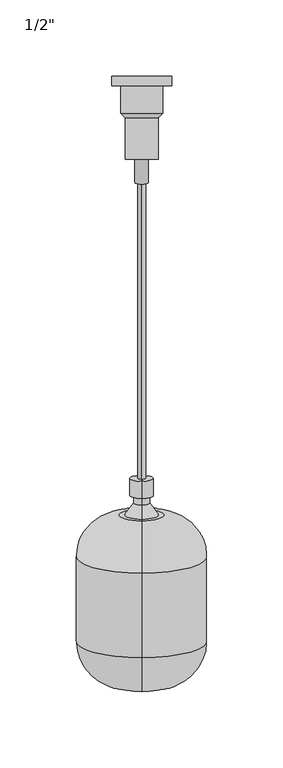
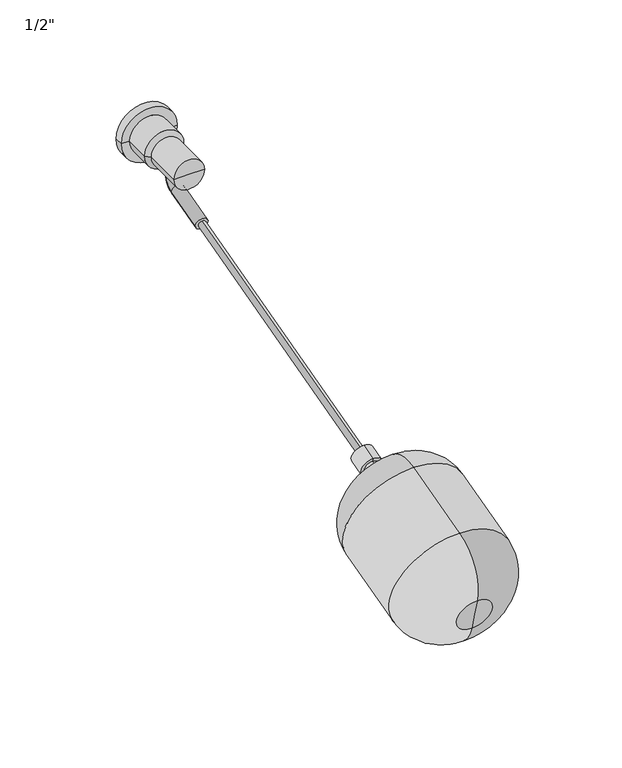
"""IFC4 building model written with IfcOpenShell, lengths in millimetres: flow terminal geometry."""

import ifcopenshell
import ifcopenshell.guid

model = None  # the IFC model being written
_history = None  # IfcOwnerHistory: only IFC2X3 demands one
_inside = {}  # id of a spatial element -> (the spatial element, [elements in it])
_under = {}  # id of a project, library or spatial element -> (it, [spatial elements below it])
_declared = {}  # id of a project -> (the project, [libraries it declares])
_typed = {}  # id of a type object -> (the type object, [elements of that type])
_made_of = {}  # id of a material, layer set ... -> (it, [elements and type objects made of it])


def new_model(schema):
    """Start an empty IFC model of exactly this schema.

    Asked for "IFC4X3", IfcOpenShell would pick the latest addendum, in which some entities
    have other attributes; the version numbers below select the first issue.
    IFC2X3 requires an IfcOwnerHistory on every rooted entity: one is made here for all.
    """
    global model, _history
    if schema == "IFC4X3":
        model = ifcopenshell.file(schema_version=(4, 3, 0, 0))
    else:
        model = ifcopenshell.file(schema=schema)
    _inside.clear()
    _under.clear()
    _declared.clear()
    _typed.clear()
    _made_of.clear()
    _history = None
    if model.schema == "IFC2X3":
        org = make("IfcOrganization", Name="unknown")
        user = make(
            "IfcPersonAndOrganization",
            ThePerson=make("IfcPerson", FamilyName="unknown"),
            TheOrganization=org,
        )
        app = make(
            "IfcApplication",
            ApplicationDeveloper=org,
            Version="unknown",
            ApplicationFullName="unknown",
            ApplicationIdentifier="unknown",
        )
        _history = make(
            "IfcOwnerHistory",
            OwningUser=user,
            OwningApplication=app,
            ChangeAction="ADDED",
            CreationDate=0,
        )
    return model


def make(cls, **values):
    """One entity of the class cls with the attributes given. An attribute that is None is left unset."""
    return model.create_entity(
        cls, **{name: value for name, value in values.items() if value is not None}
    )


def rooted(cls, **values):
    """An entity with a GlobalId (a new one), such as an element, a storey or a relation."""
    return make(cls, GlobalId=ifcopenshell.guid.new(), OwnerHistory=_history, **values)


def si_unit(unit_type, name, prefix=None):
    """IfcSIUnit, for example si_unit("LENGTHUNIT", "METRE", prefix="MILLI")."""
    return make("IfcSIUnit", UnitType=unit_type, Prefix=prefix, Name=name)


def assignment(units):
    """IfcUnitAssignment: the units of a project."""
    return None if units is None else make("IfcUnitAssignment", Units=units)


def point(xyz):
    """IfcCartesianPoint."""
    return None if xyz is None else make("IfcCartesianPoint", Coordinates=xyz)


def direction(xyz):
    """IfcDirection."""
    return None if xyz is None else make("IfcDirection", DirectionRatios=xyz)


def frame(location, z_axis=None, x_axis=None):
    """IfcAxis2Placement3D, a coordinate frame: its origin and axes. An axis left out is left unset."""
    return make(
        "IfcAxis2Placement3D",
        Location=point(location),
        Axis=direction(z_axis),
        RefDirection=direction(x_axis),
    )


def frame_2d(location, x_axis=None):
    """IfcAxis2Placement2D, a coordinate frame in the plane: its origin and x axis."""
    return make(
        "IfcAxis2Placement2D", Location=point(location), RefDirection=direction(x_axis)
    )


def origin():
    """The frame at (0, 0, 0) with its axes left unset."""
    return frame((0.0, 0.0, 0.0))


def origin_2d():
    """The frame at (0, 0) in the plane with its x axis left unset."""
    return frame_2d((0.0, 0.0))


def place(relative_to, where):
    """IfcLocalPlacement: puts the frame where relative to a parent placement (None: the world)."""
    return make(
        "IfcLocalPlacement", PlacementRelTo=relative_to, RelativePlacement=where
    )


def context(
    kind, dimensions, precision=None, world=None, true_north=None, identifier=None
):
    """IfcGeometricRepresentationContext, for example the 3D "Model" context."""
    return make(
        "IfcGeometricRepresentationContext",
        ContextIdentifier=identifier,
        ContextType=kind,
        CoordinateSpaceDimension=dimensions,
        Precision=precision,
        WorldCoordinateSystem=world,
        TrueNorth=true_north,
    )


def project(units=None, contexts=None):
    """IfcProject with its units and contexts."""
    return rooted(
        "IfcProject",
        Name="project",
        RepresentationContexts=contexts,
        UnitsInContext=assignment(units),
    )


def spatial(cls, under=None, at=None, **own):
    """A site, building, storey or space (cls), placed at a placement, below another one or the project."""
    s = rooted(cls, ObjectPlacement=at, **own)
    if under is not None:
        _under.setdefault(under.id(), (under, []))[1].append(s)
    return s


def polyline(points):
    """IfcPolyline through the points."""
    return make("IfcPolyline", Points=[point(p) for p in points])


def circle_curve(where, radius):
    """IfcCircle in the frame where."""
    return make("IfcCircle", Position=where, Radius=radius)


def ellipse_curve(where, semi_axis1, semi_axis2):
    """IfcEllipse in the frame where."""
    return make(
        "IfcEllipse", Position=where, SemiAxis1=semi_axis1, SemiAxis2=semi_axis2
    )


def trimmed(basis, trim1, trim2, sense, master):
    """IfcTrimmedCurve: the piece of a basis curve between two trims."""
    return make(
        "IfcTrimmedCurve",
        BasisCurve=basis,
        Trim1=trim1,
        Trim2=trim2,
        SenseAgreement=sense,
        MasterRepresentation=master,
    )


def segment(curve, same_sense, transition):
    """IfcCompositeCurveSegment."""
    return make(
        "IfcCompositeCurveSegment",
        Transition=transition,
        SameSense=same_sense,
        ParentCurve=curve,
    )


def composite_curve(segments, self_intersect=None):
    """IfcCompositeCurve: segments joined end to end."""
    return make("IfcCompositeCurve", Segments=segments, SelfIntersect=self_intersect)


def outline(outer, holes=None, kind="AREA"):
    """IfcArbitraryClosedProfileDef: a profile drawn as a closed curve; with holes, ...WithVoids."""
    if holes is None:
        return make("IfcArbitraryClosedProfileDef", ProfileType=kind, OuterCurve=outer)
    return make(
        "IfcArbitraryProfileDefWithVoids",
        ProfileType=kind,
        OuterCurve=outer,
        InnerCurves=holes,
    )


def extrude(swept, where, along, depth):
    """IfcExtrudedAreaSolid: the profile swept, set in the frame where, extruded along a direction by depth."""
    return make(
        "IfcExtrudedAreaSolid",
        SweptArea=swept,
        Position=where,
        ExtrudedDirection=direction(along),
        Depth=depth,
    )


def shape(context_of_items, identifier, shape_type, items):
    """IfcShapeRepresentation: the items that make up one representation, for example the "Body"."""
    return make(
        "IfcShapeRepresentation",
        ContextOfItems=context_of_items,
        RepresentationIdentifier=identifier,
        RepresentationType=shape_type,
        Items=items,
    )


def source(mapping_origin, context_of_items, identifier, shape_type, items):
    """IfcRepresentationMap: a shape defined once, which mapped items show again and again."""
    return make(
        "IfcRepresentationMap",
        MappingOrigin=mapping_origin,
        MappedRepresentation=shape(context_of_items, identifier, shape_type, items),
    )


def transform(
    local_origin,
    x_axis=None,
    y_axis=None,
    z_axis=None,
    scale=None,
    scale2=None,
    scale3=None,
    uniform=True,
):
    """IfcCartesianTransformationOperator3D, or its non-uniform kind. x_axis, y_axis, z_axis: its Axis1, 2, 3."""
    if uniform:
        return make(
            "IfcCartesianTransformationOperator3D",
            Axis1=direction(x_axis),
            Axis2=direction(y_axis),
            LocalOrigin=point(local_origin),
            Scale=scale,
            Axis3=direction(z_axis),
        )
    return make(
        "IfcCartesianTransformationOperator3DnonUniform",
        Axis1=direction(x_axis),
        Axis2=direction(y_axis),
        LocalOrigin=point(local_origin),
        Scale=scale,
        Axis3=direction(z_axis),
        Scale2=scale2,
        Scale3=scale3,
    )


def mapped(mapping_source, mapping_target):
    """IfcMappedItem: shows the shape of a source again, moved by a transform."""
    return make(
        "IfcMappedItem", MappingSource=mapping_source, MappingTarget=mapping_target
    )


def made_of(thing, what):
    """Note that an element or type object is made of a material, layer set ...; save() writes the relation."""
    if what is not None:
        _made_of.setdefault(what.id(), (what, []))[1].append(thing)
    return thing


def element(
    cls,
    number,
    at=None,
    inside=None,
    cuts=None,
    type_object=None,
    material=None,
    context=None,
    identifier="Body",
    shape_type=None,
    held_by="IfcProductDefinitionShape",
    body=None,
    shapes=None,
    **own,
):
    """One element of the class cls, such as IfcWall. Its Tag is "e" and its number.

    at: its placement. inside: the storey or other place that contains it. cuts: it is an
    opening in that element (IfcRelVoidsElement). A single representation is given by context,
    identifier, shape_type and body (its items); several are given by shapes. held_by: the class
    of the entity that holds the representations. save() writes the other relations.
    """
    e = rooted(cls, Tag="e%d" % number, ObjectPlacement=at, **own)
    if body is not None:
        shapes = [shape(context, identifier, shape_type, body)]
    if shapes is not None:
        e.Representation = make(held_by, Representations=shapes)
    if inside is not None:
        _inside.setdefault(inside.id(), (inside, []))[1].append(e)
    if cuts is not None:
        rooted(
            "IfcRelVoidsElement", RelatingBuildingElement=cuts, RelatedOpeningElement=e
        )
    if type_object is not None:
        _typed.setdefault(type_object.id(), (type_object, []))[1].append(e)
    return made_of(e, material)


def aggregate(whole, parts):
    """IfcRelAggregates: a whole, such as a stair, and the parts it consists of."""
    return rooted("IfcRelAggregates", RelatingObject=whole, RelatedObjects=parts)


def save(model, path):
    """Write the relations noted so far, then the file.

    IfcRelAggregates (storeys below a building ...), IfcRelContainedInSpatialStructure (elements
    in a storey), IfcRelDefinesByType, IfcRelAssociatesMaterial and IfcRelDeclares: one each for
    every whole, place, type object, material and project.
    """
    for whole, parts in _under.values():
        aggregate(whole, parts)
    for where, things in _inside.values():
        rooted(
            "IfcRelContainedInSpatialStructure",
            RelatedElements=things,
            RelatingStructure=where,
        )
    for kind, things in _typed.values():
        rooted("IfcRelDefinesByType", RelatedObjects=things, RelatingType=kind)
    for what, things in _made_of.values():
        rooted("IfcRelAssociatesMaterial", RelatedObjects=things, RelatingMaterial=what)
    for by, libraries in _declared.values():
        rooted("IfcRelDeclares", RelatingContext=by, RelatedDefinitions=libraries)
    model.write(path)


def plane_surface(at):
    """IfcPlane: the flat surface through the origin of the frame at, square to its z axis."""
    return make("IfcPlane", Position=at)


def cylinder_surface(at, radius):
    """IfcCylindricalSurface: all points at the distance radius from the z axis of the frame at."""
    return make("IfcCylindricalSurface", Position=at, Radius=radius)


def revolved_surface(curve, axis_point, axis_direction):
    """IfcSurfaceOfRevolution: the curve turned about the line through axis_point along axis_direction."""
    return make(
        "IfcSurfaceOfRevolution",
        SweptCurve=make("IfcArbitraryOpenProfileDef", ProfileType="CURVE", Curve=curve),
        AxisPosition=make("IfcAxis1Placement", Location=point(axis_point), Axis=direction(axis_direction)),
    )


def advanced_brep(points, edges, surfaces, faces):
    """IfcAdvancedBrep: a solid bounded by faces that lie on surfaces and meet in shared edges.

    An edge is (start, end): straight between two places in points (the first is 0);
    or (start, end, curve); or (start, end, curve, False) where it runs against its curve.
    A face is (place in surfaces, loops), or (place, loops, False) where it looks against
    its surface's normal. A loop lists edges by number (the first is 1), with a minus sign
    where the edge is run from its end to its start. The first loop is the outer one.
    """
    corners = [point(p) for p in points]
    vertices = [make("IfcVertexPoint", VertexGeometry=c) for c in corners]
    made = []
    for start, end, *more in edges:
        made.append(
            make(
                "IfcEdgeCurve",
                EdgeStart=vertices[start],
                EdgeEnd=vertices[end],
                EdgeGeometry=more[0] if more else make("IfcPolyline", Points=[corners[start], corners[end]]),
                SameSense=more[1] if len(more) > 1 else True,
            )
        )
    hull = []
    for where, loops, *sense in faces:
        bounds = []
        for j, loop in enumerate(loops):
            ring = [make("IfcOrientedEdge", EdgeElement=made[abs(k) - 1], Orientation=k > 0) for k in loop]
            bounds.append(
                make(
                    "IfcFaceOuterBound" if j == 0 else "IfcFaceBound",
                    Bound=make("IfcEdgeLoop", EdgeList=ring),
                    Orientation=True,
                )
            )
        hull.append(make("IfcAdvancedFace", Bounds=bounds, FaceSurface=surfaces[where], SameSense=sense[0] if sense else True))
    return make("IfcAdvancedBrep", Outer=make("IfcClosedShell", CfsFaces=hull))


def flow_terminal_e5477665(model_context):
    return source(origin(), model_context, "Body", "SolidModel", [
        advanced_brep(
        [(-4.3929317, -34.4064135, 0.0), (4.3929317, -34.4064135, 0.0), (-4.3929317, -34.4064135, -11.5268242), (4.3929317, -34.4064135, -11.5268242), (4.3929317, -40.3020706, -19.2101941), (-4.3929317, -40.3020706, -19.2101941), (-4.3929317, -69.3308707, -26.9884376), (4.3929317, -69.3308707, -26.9884376)],
        [
            (0, 1, circle_curve(frame((0.0, -34.4064135, 0.0), z_axis=(0.0, 0.0, 1.0), x_axis=(1.0, 0.0, 0.0)), 4.3929317)),
            (1, 0, circle_curve(frame((0.0, -34.4064135, 0.0), z_axis=(0.0, 0.0, 1.0), x_axis=(1.0, 0.0, 0.0)), 4.3929317)),
            (0, 2),
            (2, 3, circle_curve(frame((0.0, -34.4064135, -11.5268242), z_axis=(0.0, 0.0, 1.0), x_axis=(1.0, 0.0, 0.0)), 4.3929317)),
            (3, 1),
            (3, 2, circle_curve(frame((0.0, -34.4064135, -11.5268242), z_axis=(0.0, 0.0, 1.0), x_axis=(1.0, 0.0, 0.0)), 4.3929317)),
            (4, 3, circle_curve(frame((4.3929317, -42.3608233, -11.5268242), z_axis=(1.0, 0.0, 0.0), x_axis=(0.0, 1.0, 0.0)), 7.9544098)),
            (2, 5, circle_curve(frame((-4.3929317, -42.3608233, -11.5268242), z_axis=(-1.0, 0.0, 0.0), x_axis=(0.0, 1.0, 0.0)), 7.9544098)),
            (5, 4, circle_curve(frame((0.0, -40.3020706, -19.2101941), z_axis=(0.0, 0.9659258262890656, 0.2588190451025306), x_axis=(1.0, 0.0, 0.0)), 4.3929317)),
            (4, 5, circle_curve(frame((0.0, -40.3020706, -19.2101941), z_axis=(0.0, 0.9659258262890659, 0.25881904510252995), x_axis=(1.0, 0.0, 0.0)), 4.3929317)),
            (6, 7, circle_curve(frame((0.0, -69.3308707, -26.9884376), z_axis=(0.0, -0.9659258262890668, -0.2588190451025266), x_axis=(1.0, 0.0, 0.0)), 4.3929317)),
            (7, 6, circle_curve(frame((0.0, -69.3308707, -26.9884376), z_axis=(0.0, -0.9659258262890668, -0.2588190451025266), x_axis=(1.0, 0.0, 0.0)), 4.3929317)),
            (5, 6),
            (7, 4),
        ],
        [
            plane_surface(frame((0.0, -34.4064135, 0.0), z_axis=(0.0, 0.0, 1.0), x_axis=(1.0, 0.0, 0.0))),
            cylinder_surface(frame((0.0, -34.4064135, 0.0), z_axis=(0.0, 0.0, 1.0), x_axis=(1.0, 0.0, 0.0)), 4.3929317),
            revolved_surface(trimmed(ellipse_curve(frame((0.0, -34.4064135, -11.5268242), z_axis=(0.0, 0.0, 1.0), x_axis=(1.0, 0.0, 0.0)), 4.3929317, 4.3929317), [point((-4.3929317, -34.4064135, -11.5268242))], [point((4.3929317, -34.4064135, -11.5268242))], True, "CARTESIAN"), (0.0, -42.3608233, -11.5268242), (-1.0, 0.0, 0.0)),
            revolved_surface(trimmed(ellipse_curve(frame((0.0, -34.4064135, -11.5268242), z_axis=(0.0, 0.0, 1.0), x_axis=(1.0, 0.0, 0.0)), 4.3929317, 4.3929317), [point((4.3929317, -34.4064135, -11.5268242))], [point((-4.3929317, -34.4064135, -11.5268242))], True, "CARTESIAN"), (0.0, -42.3608233, -11.5268242), (-1.0, 0.0, 0.0)),
            plane_surface(frame((0.0, -69.3308707, -26.9884376), z_axis=(0.0, -0.9659258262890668, -0.2588190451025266), x_axis=(1.0, 0.0, 0.0))),
            cylinder_surface(frame((0.0, -40.3020706, -19.2101941), z_axis=(0.0, 0.9659258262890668, 0.2588190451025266), x_axis=(1.0, 0.0, 0.0)), 4.3929317),
        ],
        [
            (0, [[1, 2]]),
            (1, [[-1, 3, 4, 5]]),
            (1, [[-2, -5, 6, -3]]),
            (2, [[7, -4, 8, 9]]),
            (3, [[-8, -6, -7, 10]]),
            (4, [[11, 12]]),
            (5, [[-9, 13, -12, 14]]),
            (5, [[-10, -14, -11, -13]]),
        ],
    ),
        advanced_brep(
        [(0.0, -261.1209794, -86.2356857), (0.0, -265.0855678, -71.4396401), (0.0, -263.1032736, -78.8376629), (0.0, -272.2291085, -89.2120999), (0.0, -276.193697, -74.4160543), (0.0, -272.8581076, -86.8646434), (0.0, -275.5646979, -76.7635108), (0.0, -277.6877367, -88.1587386), (0.0, -280.394327, -78.0576061), (0.0, -284.1156128, -95.8191831), (0.0, -289.7912532, -74.6374046), (0.0, -283.1594055, -99.3877974), (0.0, -290.7474606, -71.0687903), (0.0, -302.9583953, -133.6806538), (0.0, -325.040317, -51.2698004), (0.0, -358.3141537, -148.5131846), (0.0, -380.3960753, -66.1023311), (0.0, -395.0564998, -127.2999812), (0.0, -401.6092787, -102.8446773), (0.0, -398.3328893, -115.0723292)],
        [
            (0, 1, circle_curve(frame((0.0, -263.1032736, -78.8376629), z_axis=(0.0, 0.9659258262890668, 0.2588190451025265), x_axis=(0.0, -0.2588190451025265, 0.9659258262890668)), 7.6589968)),
            (1, 2),
            (2, 0),
            (1, 0, circle_curve(frame((0.0, -263.1032736, -78.8376629), z_axis=(0.0, 0.9659258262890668, 0.2588190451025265), x_axis=(0.0, -0.2588190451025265, 0.9659258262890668)), 7.6589968)),
            (3, 4, circle_curve(frame((0.0, -274.2114027, -81.8140771), z_axis=(0.0, 0.9659258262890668, 0.2588190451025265), x_axis=(0.0, -0.2588190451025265, 0.9659258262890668)), 7.6589968)),
            (4, 1),
            (0, 3),
            (4, 3, circle_curve(frame((0.0, -274.2114027, -81.8140771), z_axis=(0.0, 0.9659258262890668, 0.2588190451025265), x_axis=(0.0, -0.2588190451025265, 0.9659258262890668)), 7.6589968)),
            (5, 6, circle_curve(frame((0.0, -274.2114027, -81.8140771), z_axis=(0.0, 0.9659258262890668, 0.2588190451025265), x_axis=(0.0, -0.2588190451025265, 0.9659258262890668)), 5.228731)),
            (6, 4),
            (3, 5),
            (6, 5, circle_curve(frame((0.0, -274.2114027, -81.8140771), z_axis=(0.0, 0.9659258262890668, 0.2588190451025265), x_axis=(0.0, -0.2588190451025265, 0.9659258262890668)), 5.228731)),
            (7, 8, circle_curve(frame((0.0, -279.0410319, -83.1081724), z_axis=(0.0, 0.9659258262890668, 0.2588190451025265), x_axis=(0.0, -0.2588190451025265, 0.9659258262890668)), 5.228731)),
            (8, 6),
            (5, 7),
            (8, 7, circle_curve(frame((0.0, -279.0410319, -83.1081724), z_axis=(0.0, 0.9659258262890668, 0.2588190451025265), x_axis=(0.0, -0.2588190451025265, 0.9659258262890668)), 5.228731)),
            (9, 10, circle_curve(frame((0.0, -286.953433, -85.2282939), z_axis=(0.0, 0.9659258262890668, 0.2588190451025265), x_axis=(0.0, -0.2588190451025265, 0.9659258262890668)), 10.9644953)),
            (10, 8),
            (7, 9),
            (10, 9, circle_curve(frame((0.0, -286.953433, -85.2282939), z_axis=(0.0, 0.9659258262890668, 0.2588190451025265), x_axis=(0.0, -0.2588190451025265, 0.9659258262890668)), 10.9644953)),
            (11, 12, circle_curve(frame((0.0, -286.953433, -85.2282939), z_axis=(0.0, 0.9659258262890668, 0.2588190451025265), x_axis=(0.0, -0.2588190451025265, 0.9659258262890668)), 14.6589968)),
            (12, 10),
            (9, 11),
            (12, 11, circle_curve(frame((0.0, -286.953433, -85.2282939), z_axis=(0.0, 0.9659258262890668, 0.2588190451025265), x_axis=(0.0, -0.2588190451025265, 0.9659258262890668)), 14.6589968)),
            (13, 14, circle_curve(frame((0.0, -313.9993561, -92.4752271), z_axis=(0.0, 0.9659258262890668, 0.2588190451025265), x_axis=(0.0, -0.2588190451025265, 0.9659258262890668)), 42.6589968)),
            (14, 12, circle_curve(frame((0.0, -317.7933837, -78.3157235), z_axis=(-1.0, 0.0, 0.0), x_axis=(0.0, 1.0, 0.0)), 28.0)),
            (11, 13, circle_curve(frame((0.0, -310.2053286, -106.6347307), z_axis=(-1.0, 0.0, 0.0), x_axis=(0.0, 0.8660254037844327, 0.5000000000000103)), 28.0)),
            (14, 13, circle_curve(frame((0.0, -313.9993561, -92.4752271), z_axis=(0.0, 0.9659258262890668, 0.2588190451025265), x_axis=(0.0, -0.2588190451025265, 0.9659258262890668)), 42.6589968)),
            (15, 16, circle_curve(frame((0.0, -369.3551145, -107.3077579), z_axis=(0.0, 0.9659258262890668, 0.2588190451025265), x_axis=(0.0, -0.2588190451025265, 0.9659258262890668)), 42.6589968)),
            (16, 14),
            (13, 15),
            (16, 15, circle_curve(frame((0.0, -369.3551145, -107.3077579), z_axis=(0.0, 0.9659258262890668, 0.2588190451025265), x_axis=(0.0, -0.2588190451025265, 0.9659258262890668)), 42.6589968)),
            (17, 18, circle_curve(frame((0.0, -398.3328893, -115.0723292), z_axis=(0.0, 0.9659258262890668, 0.2588190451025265), x_axis=(0.0, -0.2588190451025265, 0.9659258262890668)), 12.6589968)),
            (18, 16, circle_curve(frame((0.0, -372.631504, -95.0801059), z_axis=(-1.0, 0.0, 0.0), x_axis=(0.0, 1.0, 0.0)), 30.0)),
            (15, 17, circle_curve(frame((0.0, -366.078725, -119.5354098), z_axis=(-1.0, 0.0, 0.0), x_axis=(0.0, 0.8660254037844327, 0.5000000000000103)), 30.0)),
            (18, 17, circle_curve(frame((0.0, -398.3328893, -115.0723292), z_axis=(0.0, 0.9659258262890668, 0.2588190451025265), x_axis=(0.0, -0.2588190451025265, 0.9659258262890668)), 12.6589968)),
            (19, 18),
            (17, 19),
        ],
        [
            plane_surface(frame((0.0, -263.1032736, -78.8376629), z_axis=(0.0, 0.9659258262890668, 0.2588190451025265), x_axis=(0.0, -0.2588190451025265, 0.9659258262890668))),
            cylinder_surface(frame((0.0, -304.1551212, -89.8374723), z_axis=(0.0, -0.9659258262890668, -0.2588190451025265), x_axis=(0.0, -0.2588190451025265, 0.9659258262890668)), 7.6589968),
            plane_surface(frame((0.0, -274.2114027, -81.8140771), z_axis=(0.0, -0.9659258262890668, -0.2588190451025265), x_axis=(0.0, -0.2588190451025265, 0.9659258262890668))),
            cylinder_surface(frame((0.0, -304.1551212, -89.8374723), z_axis=(0.0, -0.9659258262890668, -0.2588190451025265), x_axis=(0.0, -0.2588190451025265, 0.9659258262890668)), 5.228731),
            revolved_surface(polyline([(0.0, -280.394327, -78.0576061), (0.0, -289.7912532, -74.6374046)]), (0.0, -304.1551212, -89.8374723), (0.0, -0.9659258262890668, -0.2588190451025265)),
            plane_surface(frame((0.0, -286.953433, -85.2282939), z_axis=(0.0, 0.9659258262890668, 0.2588190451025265), x_axis=(0.0, -0.2588190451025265, 0.9659258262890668))),
            revolved_surface(trimmed(ellipse_curve(frame((0.0, -317.7933837, -78.3157235), z_axis=(1.0, 0.0, 0.0), x_axis=(0.0, 1.0, 0.0)), 28.0, 28.0), [point((0.0, -290.7474606, -71.0687903))], [point((0.0, -325.040317, -51.2698004))], True, "CARTESIAN"), (0.0, -304.1551212, -89.8374723), (0.0, -0.9659258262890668, -0.2588190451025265)),
            cylinder_surface(frame((0.0, -304.1551212, -89.8374723), z_axis=(0.0, -0.9659258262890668, -0.2588190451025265), x_axis=(0.0, -0.2588190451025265, 0.9659258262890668)), 42.6589968),
            revolved_surface(trimmed(ellipse_curve(frame((0.0, -372.631504, -95.0801059), z_axis=(1.0, 0.0, 0.0), x_axis=(0.0, 1.0, 0.0)), 30.0, 30.0), [point((0.0, -380.3960753, -66.1023311))], [point((0.0, -401.6092787, -102.8446773))], True, "CARTESIAN"), (0.0, -304.1551212, -89.8374723), (0.0, -0.9659258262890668, -0.2588190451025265)),
            plane_surface(frame((0.0, -398.3328893, -115.0723292), z_axis=(0.0, -0.9659258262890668, -0.2588190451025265), x_axis=(0.0, -0.2588190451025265, 0.9659258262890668))),
        ],
        [
            (0, [[1, 2, 3]]),
            (0, [[4, -3, -2]]),
            (1, [[5, 6, -1, 7]]),
            (1, [[8, -7, -4, -6]]),
            (2, [[9, 10, -5, 11]]),
            (2, [[12, -11, -8, -10]]),
            (3, [[13, 14, -9, 15]]),
            (3, [[16, -15, -12, -14]]),
            (4, [[17, 18, -13, 19]]),
            (4, [[20, -19, -16, -18]]),
            (5, [[21, 22, -17, 23]]),
            (5, [[24, -23, -20, -22]]),
            (6, [[25, 26, -21, 27]]),
            (6, [[28, -27, -24, -26]]),
            (7, [[29, 30, -25, 31]]),
            (7, [[32, -31, -28, -30]]),
            (8, [[33, 34, -29, 35]]),
            (8, [[36, -35, -32, -34]]),
            (9, [[37, -33, 38]]),
            (9, [[-38, -36, -37]]),
        ],
    ),
        extrude(outline(composite_curve([segment(trimmed(circle_curve(origin_2d(), 2.6), [point((0.0, -2.5999999))], [point((0.0, 2.5999999))], False, "CARTESIAN"), True, "CONTINUOUS"), segment(trimmed(circle_curve(origin_2d(), 2.6), [point((0.0, 2.5999999))], [point((0.0, -2.5999999))], False, "CARTESIAN"), True, "CONTINUOUS")], self_intersect=False)), frame((0.0, -263.1032736, -78.8376629), z_axis=(0.0, 0.9659258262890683, 0.2588190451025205), x_axis=(1.0, 0.0, 0.0)), (0.0, 0.0, 1.0), 235.0),
        advanced_brep(
        [(19.6299092, -6.0, 0.0), (-19.6299092, -6.0, 0.0), (-19.6299092, 0.0, 0.0), (19.6299092, 0.0, 0.0), (13.7568557, -6.0, 0.0), (-13.7568557, -6.0, 0.0), (13.7568557, -24.0036181, 0.0), (-13.7568557, -24.0036181, 0.0), (10.8158842, -26.9445896, 0.0), (-10.8158842, -26.9445896, 0.0), (10.8158842, -54.202, 0.0), (-10.8158842, -54.202, 0.0), (0.0, -54.202, 0.0), (0.0, 0.0, 0.0)],
        [
            (0, 1, circle_curve(frame((0.0, -6.0, 0.0), z_axis=(0.0, 1.0, 0.0), x_axis=(-1.0, 0.0, 0.0)), 19.6299092)),
            (1, 2),
            (2, 3, circle_curve(frame((0.0, 0.0, 0.0), z_axis=(0.0, -1.0, 0.0), x_axis=(-1.0, 0.0, 0.0)), 19.6299092)),
            (3, 0),
            (1, 0, circle_curve(frame((0.0, -6.0, 0.0), z_axis=(0.0, 1.0, 0.0), x_axis=(-1.0, 0.0, 0.0)), 19.6299092)),
            (3, 2, circle_curve(frame((0.0, 0.0, 0.0), z_axis=(0.0, -1.0, 0.0), x_axis=(-1.0, 0.0, 0.0)), 19.6299092)),
            (4, 5, circle_curve(frame((0.0, -6.0, 0.0), z_axis=(0.0, 1.0, 0.0), x_axis=(-1.0, 0.0, 0.0)), 13.7568557)),
            (5, 1),
            (0, 4),
            (5, 4, circle_curve(frame((0.0, -6.0, 0.0), z_axis=(0.0, 1.0, 0.0), x_axis=(-1.0, 0.0, 0.0)), 13.7568557)),
            (6, 7, circle_curve(frame((0.0, -24.0036181, 0.0), z_axis=(0.0, 1.0, 0.0), x_axis=(-1.0, 0.0, 0.0)), 13.7568557)),
            (7, 5),
            (4, 6),
            (7, 6, circle_curve(frame((0.0, -24.0036181, 0.0), z_axis=(0.0, 1.0, 0.0), x_axis=(-1.0, 0.0, 0.0)), 13.7568557)),
            (8, 9, circle_curve(frame((0.0, -26.9445896, 0.0), z_axis=(0.0, 1.0, 0.0), x_axis=(-1.0, 0.0, 0.0)), 10.8158842)),
            (9, 7),
            (6, 8),
            (9, 8, circle_curve(frame((0.0, -26.9445896, 0.0), z_axis=(0.0, 1.0, 0.0), x_axis=(-1.0, 0.0, 0.0)), 10.8158842)),
            (10, 11, circle_curve(frame((0.0, -54.202, 0.0), z_axis=(0.0, 1.0, 0.0), x_axis=(-1.0, 0.0, 0.0)), 10.8158842)),
            (11, 9),
            (8, 10),
            (11, 10, circle_curve(frame((0.0, -54.202, 0.0), z_axis=(0.0, 1.0, 0.0), x_axis=(-1.0, 0.0, 0.0)), 10.8158842)),
            (12, 11),
            (10, 12),
            (2, 13),
            (13, 3),
        ],
        [
            cylinder_surface(frame((0.0, 16.4467762, 0.0), z_axis=(0.0, -1.0, 0.0), x_axis=(-1.0, 0.0, 0.0)), 19.6299092),
            plane_surface(frame((0.0, -6.0, 0.0), z_axis=(0.0, -1.0, 0.0), x_axis=(-1.0, 0.0, 0.0))),
            cylinder_surface(frame((0.0, 16.4467762, 0.0), z_axis=(0.0, -1.0, 0.0), x_axis=(-1.0, 0.0, 0.0)), 13.7568557),
            revolved_surface(polyline([(-13.7568557, -24.0036181, 0.0), (-10.8158842, -26.9445896, 0.0)]), (0.0, 16.4467762, 0.0), (0.0, -1.0, 0.0)),
            cylinder_surface(frame((0.0, 16.4467762, 0.0), z_axis=(0.0, -1.0, 0.0), x_axis=(-1.0, 0.0, 0.0)), 10.8158842),
            plane_surface(frame((0.0, -54.202, 0.0), z_axis=(0.0, -1.0, 0.0), x_axis=(-1.0, 0.0, 0.0))),
            plane_surface(frame((0.0, 0.0, 0.0), z_axis=(0.0, 1.0, 0.0), x_axis=(-1.0, 0.0, 0.0))),
        ],
        [
            (0, [[1, 2, 3, 4]]),
            (0, [[5, -4, 6, -2]]),
            (1, [[7, 8, -1, 9]]),
            (1, [[10, -9, -5, -8]]),
            (2, [[11, 12, -7, 13]]),
            (2, [[14, -13, -10, -12]]),
            (3, [[15, 16, -11, 17]]),
            (3, [[18, -17, -14, -16]]),
            (4, [[19, 20, -15, 21]]),
            (4, [[22, -21, -18, -20]]),
            (5, [[23, -19, 24]]),
            (5, [[-24, -22, -23]]),
            (6, [[-3, 25, 26]]),
            (6, [[-6, -26, -25]]),
        ],
    ),
    ])


if __name__ == "__main__":
    model = new_model("IFC4")
    model_context = context("Model", 3, world=origin())
    ifc_project = project(units=[si_unit("LENGTHUNIT", "METRE", prefix="MILLI")], contexts=[model_context])
    site = spatial("IfcSite", under=ifc_project)
    building = spatial("IfcBuilding", under=site)
    placement = place(None, origin())
    flow_terminal_shape = flow_terminal_e5477665(model_context)
    element("IfcFlowTerminal", 1, ObjectType="Torneira boia - Fortlev : 1/2\"", at=placement, inside=building, context=model_context, shape_type="MappedRepresentation", body=[
        mapped(flow_terminal_shape, transform((0.0, 0.0, 0.0), x_axis=(1.0, 0.0, 0.0), y_axis=(0.0, 1.0, 0.0), z_axis=(0.0, 0.0, 1.0))),
    ])
    save(model, "model.ifc")
